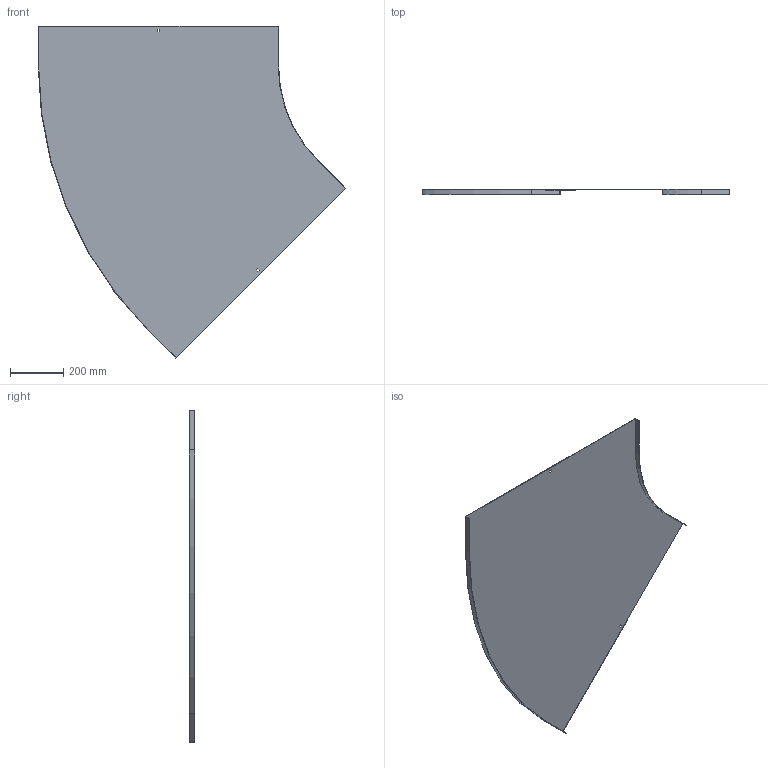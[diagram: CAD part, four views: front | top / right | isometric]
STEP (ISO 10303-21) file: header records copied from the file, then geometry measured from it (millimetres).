
FILE_DESCRIPTION (( 'STEP AP214' ), '1' );
FILE_NAME ('11N5R900.step', '2025-02-21T10:50:19', ( '' ), ( '' ), 'SwSTEP 2.0', 'SolidWorks 2023', '' );
FILE_SCHEMA (( 'AUTOMOTIVE_DESIGN' ));
Length unit declared in the file: millimetre
Products named in the file (1): 11N5R900
Bounding box: 1155.07 x 20 x 1247.08 mm (x, y, z)
Volume: 1474865.3 mm3; surface area: 1972538.5 mm2
Topology: 1 solids, 1 shells, 26 faces, 72 edges, 48 vertices
Faces by surface type: plane 22, cylinder 4
Entity records: 855 total; most frequent: CARTESIAN_POINT 147, ORIENTED_EDGE 144, DIRECTION 134, EDGE_CURVE 72, LINE 64, VECTOR 64, VERTEX_POINT 48, AXIS2_PLACEMENT_3D 35
